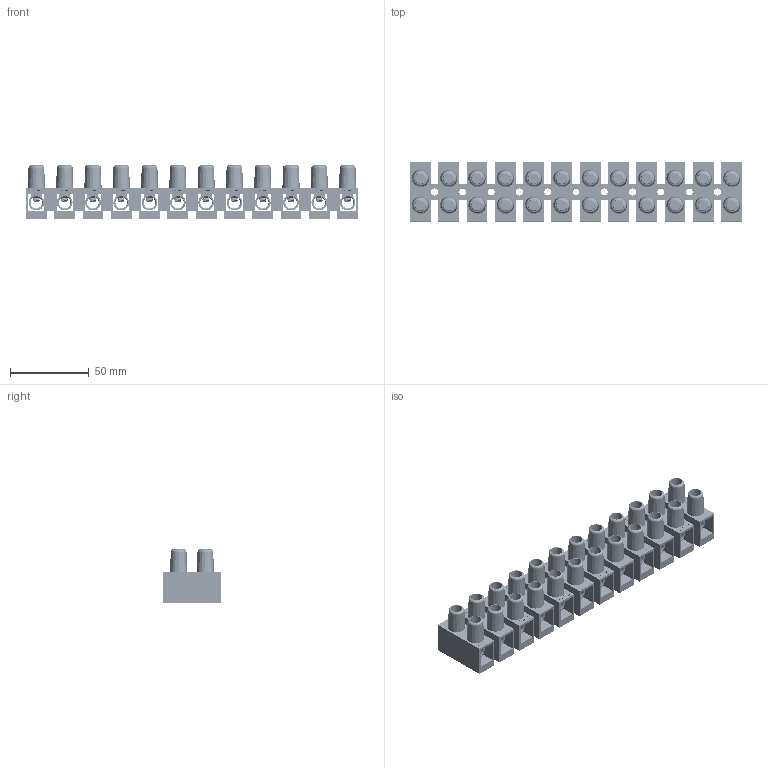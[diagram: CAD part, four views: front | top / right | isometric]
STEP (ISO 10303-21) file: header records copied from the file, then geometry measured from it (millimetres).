
FILE_DESCRIPTION(('HOOPS Exchange Step'),'2;1');
FILE_NAME('C:\Users\alefe\AppData\Local\Packages\Shapr3D.Shapr3D_dvv5p1vgwv6mp\TempState\export\temp_export','2025-10-17T00:04:39-22:00',('alefe'),('Shapr3D Limited'),'HOOPS Exchange 2025.5','Shapr3D','Authorized');
FILE_SCHEMA( ('AP242_MANAGED_MODEL_BASED_3D_ENGINEERING_MIM_LF {1 0 10303 442 1 1 4}') );
Length unit declared in the file: millimetre
Products named in the file (25): 2311133 bussola ok 433.step; Vite 433 2505648.step; Vite 433 2505648.step (1); OK433 NY SPM.step; Vite 433 2505648.step (3); Vite 433 2505648.step (2); 2301133 bussola 433.step (3); 2301133 bussola 433.step (2); 2301133 bussola 433.step (1); 2301133 bussola 433.step; OK433 NY.step; OK 433 NY - F BC.step; Vite 438 2506348.step; Bussola 438 2300933.step; root
Assembly tree (24 placements, depth 5):
  root
    OK 433 NY - F BC.step
      2311133 bussola ok 433.step
      OK433 NY SPM.step
        Vite 433 2505648.step (1)
          Vite 433 2505648.step
      OK433 NY.step
        Vite 433 2505648.step (3)
        Vite 433 2505648.step (2)
        Vite 433 2505648.step (2)
        Vite 433 2505648.step (1)
        Vite 433 2505648.step (2)
        Vite 433 2505648.step (1)
        Vite 433 2505648.step (1)
        Vite 433 2505648.step
        2301133 bussola 433.step (3)
        2301133 bussola 433.step (2)
        2301133 bussola 433.step (2)
        2301133 bussola 433.step (1)
        2301133 bussola 433.step (2)
        2301133 bussola 433.step (1)
        2301133 bussola 433.step (1)
        2301133 bussola 433.step
    Vite 438 2506348.step
    Bussola 438 2300933.step
Bounding box: 211.2 x 37.5 x 34 mm (x, y, z)
Volume: 78669.3 mm3; surface area: 109733.7 mm2
Topology: 37 solids, 37 shells, 2877 faces, 7725 edges, 5144 vertices
Faces by surface type: plane 1714, bspline 786, cylinder 233, cone 72, torus 72
Full cylindrical faces by diameter (mm): 3.2 x6, 4.5 x11, 5 x48, 7.2 x24, 7.3 x24, 7.4 x12
Entity records: 426434 total; most frequent: CARTESIAN_POINT 359614, ORIENTED_EDGE 15450, DIRECTION 10619, EDGE_CURVE 7725, VERTEX_POINT 5144, VECTOR 4913, LINE 4913, EDGE_LOOP 3313
